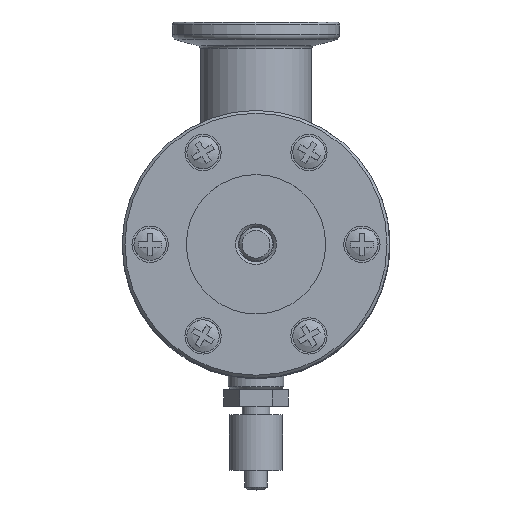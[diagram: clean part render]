
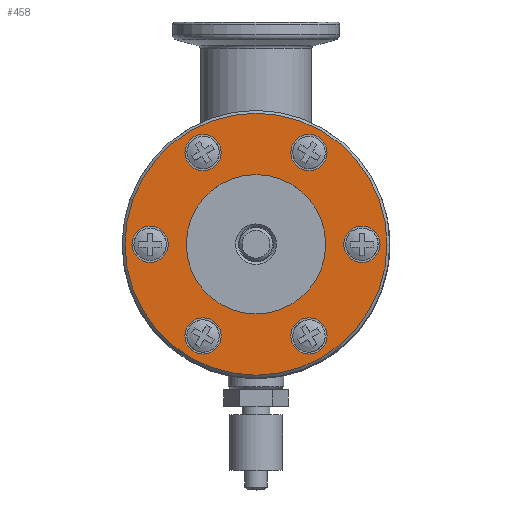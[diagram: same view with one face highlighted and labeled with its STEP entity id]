
A CAD part, top view. The second image highlights one B-rep face of the part: STEP entity #458.
In plain terms, the highlighted planar face has unit normal (0, 0, 1) as drawn and (0, 0, -1) by its records, which use the part's own axes.
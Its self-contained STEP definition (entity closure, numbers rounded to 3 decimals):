
#458 = ADVANCED_FACE( '', ( #814, #815, #816, #817, #818, #819, #820, #821 ), #822, .T. );
#814 = FACE_OUTER_BOUND( '', #1266, .T. );
#815 = FACE_BOUND( '', #1267, .T. );
#816 = FACE_BOUND( '', #1268, .T. );
#817 = FACE_BOUND( '', #1269, .T. );
#818 = FACE_BOUND( '', #1270, .T. );
#819 = FACE_BOUND( '', #1271, .T. );
#820 = FACE_BOUND( '', #1272, .T. );
#821 = FACE_BOUND( '', #1273, .T. );
#822 = PLANE( '', #1274 );
#1266 = EDGE_LOOP( '', ( #1919 ) );
#1267 = EDGE_LOOP( '', ( #1920 ) );
#1268 = EDGE_LOOP( '', ( #1921 ) );
#1269 = EDGE_LOOP( '', ( #1922 ) );
#1270 = EDGE_LOOP( '', ( #1923 ) );
#1271 = EDGE_LOOP( '', ( #1924 ) );
#1272 = EDGE_LOOP( '', ( #1925 ) );
#1273 = EDGE_LOOP( '', ( #1926 ) );
#1274 = AXIS2_PLACEMENT_3D( '', #1927, #1928, #1929 );
#1919 = ORIENTED_EDGE( '', *, *, #2541, .T. );
#1920 = ORIENTED_EDGE( '', *, *, #2542, .T. );
#1921 = ORIENTED_EDGE( '', *, *, #2543, .T. );
#1922 = ORIENTED_EDGE( '', *, *, #2544, .T. );
#1923 = ORIENTED_EDGE( '', *, *, #2545, .T. );
#1924 = ORIENTED_EDGE( '', *, *, #2546, .T. );
#1925 = ORIENTED_EDGE( '', *, *, #2547, .T. );
#1926 = ORIENTED_EDGE( '', *, *, #2548, .T. );
#1927 = CARTESIAN_POINT( '', ( 0., 0., 0. ) );
#1928 = DIRECTION( '', ( 0., 0., -1. ) );
#1929 = DIRECTION( '', ( -1., 0., 0. ) );
#2541 = EDGE_CURVE( '', #2873, #2873, #2874, .T. );
#2542 = EDGE_CURVE( '', #2875, #2875, #2876, .T. );
#2543 = EDGE_CURVE( '', #2877, #2877, #2878, .T. );
#2544 = EDGE_CURVE( '', #2879, #2879, #2880, .T. );
#2545 = EDGE_CURVE( '', #2881, #2881, #2882, .T. );
#2546 = EDGE_CURVE( '', #2883, #2883, #2884, .T. );
#2547 = EDGE_CURVE( '', #2885, #2885, #2886, .T. );
#2548 = EDGE_CURVE( '', #2887, #2887, #2888, .T. );
#2873 = VERTEX_POINT( '', #3836 );
#2874 = CIRCLE( '', #3837, 23.5 );
#2875 = VERTEX_POINT( '', #3838 );
#2876 = CIRCLE( '', #3839, 3.25 );
#2877 = VERTEX_POINT( '', #3840 );
#2878 = CIRCLE( '', #3841, 3.25 );
#2879 = VERTEX_POINT( '', #3842 );
#2880 = CIRCLE( '', #3843, 3.25 );
#2881 = VERTEX_POINT( '', #3844 );
#2882 = CIRCLE( '', #3845, 3.25 );
#2883 = VERTEX_POINT( '', #3846 );
#2884 = CIRCLE( '', #3847, 3.25 );
#2885 = VERTEX_POINT( '', #3848 );
#2886 = CIRCLE( '', #3849, 3.25 );
#2887 = VERTEX_POINT( '', #3850 );
#2888 = CIRCLE( '', #3851, 12.5 );
#3836 = CARTESIAN_POINT( '', ( -23.5, 0., 0. ) );
#3837 = AXIS2_PLACEMENT_3D( '', #4314, #4315, #4316 );
#3838 = CARTESIAN_POINT( '', ( 9.5, -13.204, 0. ) );
#3839 = AXIS2_PLACEMENT_3D( '', #4317, #4318, #4319 );
#3840 = CARTESIAN_POINT( '', ( -9.5, -13.204, 0. ) );
#3841 = AXIS2_PLACEMENT_3D( '', #4320, #4321, #4322 );
#3842 = CARTESIAN_POINT( '', ( -19., 3.25, 0. ) );
#3843 = AXIS2_PLACEMENT_3D( '', #4323, #4324, #4325 );
#3844 = CARTESIAN_POINT( '', ( -9.5, 19.704, 0. ) );
#3845 = AXIS2_PLACEMENT_3D( '', #4326, #4327, #4328 );
#3846 = CARTESIAN_POINT( '', ( 9.5, 19.704, 0. ) );
#3847 = AXIS2_PLACEMENT_3D( '', #4329, #4330, #4331 );
#3848 = CARTESIAN_POINT( '', ( 19., 3.25, 0. ) );
#3849 = AXIS2_PLACEMENT_3D( '', #4332, #4333, #4334 );
#3850 = CARTESIAN_POINT( '', ( 0., 12.5, 0. ) );
#3851 = AXIS2_PLACEMENT_3D( '', #4335, #4336, #4337 );
#4314 = CARTESIAN_POINT( '', ( 0., 0., 0. ) );
#4315 = DIRECTION( '', ( 0., 0., -1. ) );
#4316 = DIRECTION( '', ( -1., 0., 0. ) );
#4317 = CARTESIAN_POINT( '', ( 9.5, -16.454, 0. ) );
#4318 = DIRECTION( '', ( 0., 0., 1. ) );
#4319 = DIRECTION( '', ( 0., 1., 0. ) );
#4320 = CARTESIAN_POINT( '', ( -9.5, -16.454, 0. ) );
#4321 = DIRECTION( '', ( 0., 0., 1. ) );
#4322 = DIRECTION( '', ( 0., 1., 0. ) );
#4323 = CARTESIAN_POINT( '', ( -19., 0., 0. ) );
#4324 = DIRECTION( '', ( 0., 0., 1. ) );
#4325 = DIRECTION( '', ( 0., 1., 0. ) );
#4326 = CARTESIAN_POINT( '', ( -9.5, 16.454, 0. ) );
#4327 = DIRECTION( '', ( 0., 0., 1. ) );
#4328 = DIRECTION( '', ( 0., 1., 0. ) );
#4329 = CARTESIAN_POINT( '', ( 9.5, 16.454, 0. ) );
#4330 = DIRECTION( '', ( 0., 0., 1. ) );
#4331 = DIRECTION( '', ( 0., 1., 0. ) );
#4332 = CARTESIAN_POINT( '', ( 19., 0., 0. ) );
#4333 = DIRECTION( '', ( 0., 0., 1. ) );
#4334 = DIRECTION( '', ( 0., 1., 0. ) );
#4335 = CARTESIAN_POINT( '', ( 0., 0., 0. ) );
#4336 = DIRECTION( '', ( 0., 0., 1. ) );
#4337 = DIRECTION( '', ( 0., 1., 0. ) );
